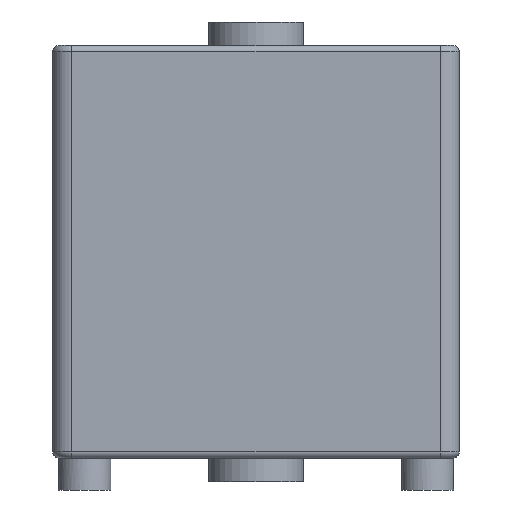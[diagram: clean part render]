
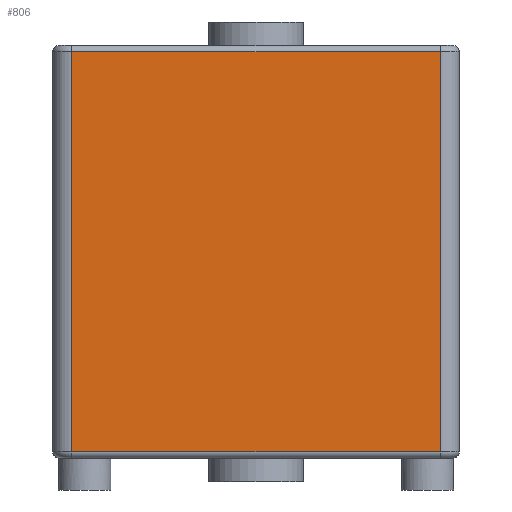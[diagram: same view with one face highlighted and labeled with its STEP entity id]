
A CAD part, front view. The second image highlights one B-rep face of the part: STEP entity #806.
In plain terms, the highlighted planar face has unit normal (0, -1, 0).
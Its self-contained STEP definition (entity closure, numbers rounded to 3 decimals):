
#40=PLANE('',#897);
#69=FACE_OUTER_BOUND('',#121,.T.);
#121=EDGE_LOOP('',(#582,#583,#584,#585));
#182=LINE('',#1384,#223);
#186=LINE('',#1393,#227);
#187=LINE('',#1397,#228);
#188=LINE('',#1398,#229);
#223=VECTOR('',#1062,10.);
#227=VECTOR('',#1070,10.);
#228=VECTOR('',#1075,10.);
#229=VECTOR('',#1076,10.);
#328=VERTEX_POINT('',#1296);
#353=VERTEX_POINT('',#1378);
#356=VERTEX_POINT('',#1392);
#357=VERTEX_POINT('',#1396);
#442=EDGE_CURVE('',#328,#353,#182,.T.);
#446=EDGE_CURVE('',#353,#356,#186,.T.);
#448=EDGE_CURVE('',#357,#328,#187,.T.);
#449=EDGE_CURVE('',#356,#357,#188,.T.);
#582=ORIENTED_EDGE('',*,*,#442,.F.);
#583=ORIENTED_EDGE('',*,*,#448,.F.);
#584=ORIENTED_EDGE('',*,*,#449,.F.);
#585=ORIENTED_EDGE('',*,*,#446,.F.);
#806=ADVANCED_FACE('',(#69),#40,.T.);
#897=AXIS2_PLACEMENT_3D('',#1395,#1073,#1074);
#1062=DIRECTION('',(-1.,0.,0.));
#1070=DIRECTION('',(0.,0.,1.));
#1073=DIRECTION('center_axis',(0.,-1.,0.));
#1074=DIRECTION('ref_axis',(-1.,0.,0.));
#1075=DIRECTION('',(0.,0.,-1.));
#1076=DIRECTION('',(1.,0.,0.));
#1296=CARTESIAN_POINT('',(29.,-96.5,-64.));
#1378=CARTESIAN_POINT('',(-29.,-96.5,-64.));
#1384=CARTESIAN_POINT('',(16.,-96.5,-64.));
#1392=CARTESIAN_POINT('',(-29.,-96.5,-1.));
#1393=CARTESIAN_POINT('',(-29.,-96.5,0.));
#1395=CARTESIAN_POINT('Origin',(32.,-96.5,0.));
#1396=CARTESIAN_POINT('',(29.,-96.5,-1.));
#1397=CARTESIAN_POINT('',(29.,-96.5,0.));
#1398=CARTESIAN_POINT('',(16.,-96.5,-1.));
